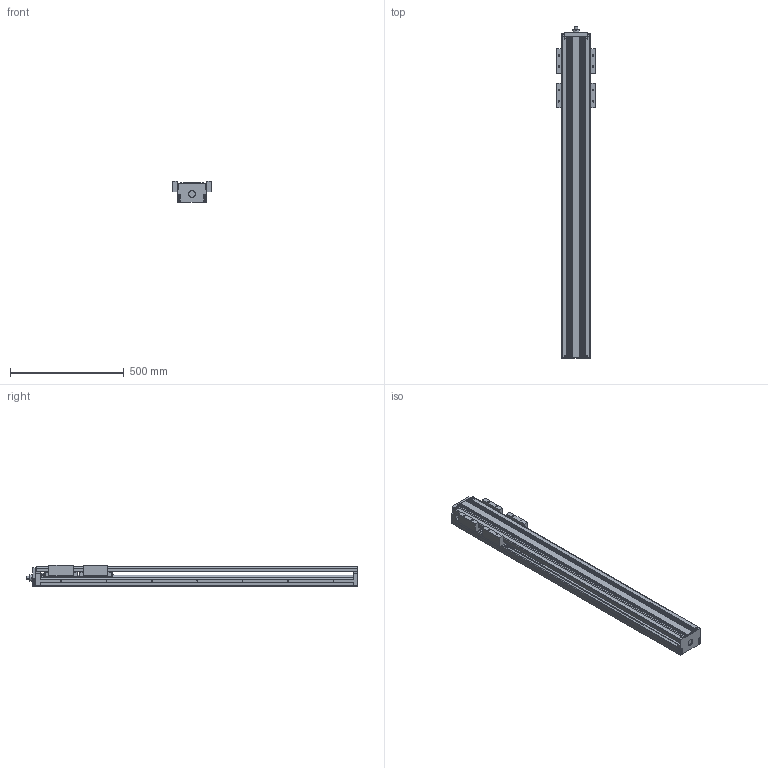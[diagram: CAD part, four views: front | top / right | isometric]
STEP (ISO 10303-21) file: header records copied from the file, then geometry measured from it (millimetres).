
FILE_DESCRIPTION(('no description'),'unknown implementation level');
FILE_NAME('KK13025P1380A2H0C00_FILE_65.stp',' ',('HIWIN GmbH'),('CADClick - KiM GmbH - www.kimweb.de'),'unknown preprocess','ACIS','unknown authorization');
FILE_SCHEMA(('automotive_design'));
Length unit declared in the file: millimetre
Products named in the file (3): KK13025P1380A2H0C00_FILE_1; KK130_FILE; KK13025P1380A2H0C00_FILE
Bounding box: 170 x 1462 x 94 mm (x, y, z)
Volume: 7521426.1 mm3; surface area: 1445283.7 mm2
Topology: 3 solids, 23 shells, 1259 faces, 3158 edges, 2038 vertices
Faces by surface type: plane 793, cylinder 406, torus 52, sphere 4, cone 4
Entity records: 73982 total; most frequent: DIRECTION 6694, CARTESIAN_POINT 6670, STYLED_ITEM 6454, PRESENTATION_STYLE_ASSIGNMENT 6454, COLOUR_RGB 6454, ORIENTED_EDGE 6308, EDGE_CURVE 3154, CURVE_STYLE 3154
